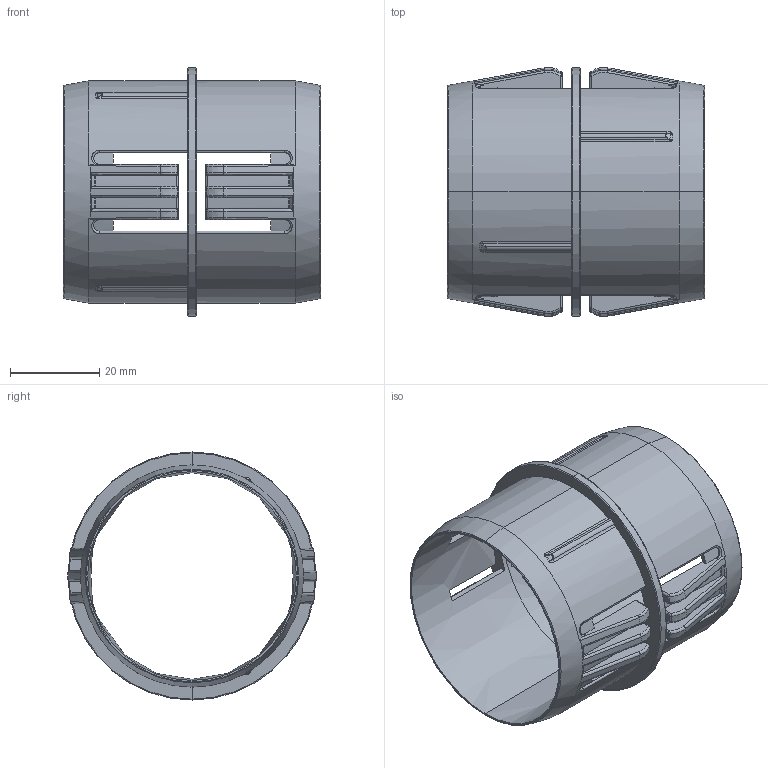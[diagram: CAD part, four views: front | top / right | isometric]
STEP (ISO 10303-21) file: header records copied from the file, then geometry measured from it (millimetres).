
FILE_DESCRIPTION (( 'STEP AP214' ), '1' );
FILE_NAME ('KP_CC-63.STEP', '2023-03-06T07:51:17', ( '' ), ( '' ), 'SwSTEP 2.0', 'SolidWorks 2022', '' );
FILE_SCHEMA (( 'AUTOMOTIVE_DESIGN' ));
Length unit declared in the file: millimetre
Products named in the file (1): KP_CC-63
Bounding box: 57.5 x 55.69 x 55.5 mm (x, y, z)
Volume: 14172.9 mm3; surface area: 19196.1 mm2
Topology: 1 solids, 1 shells, 343 faces, 875 edges, 522 vertices
Faces by surface type: bspline 104, cylinder 69, cone 52, plane 50, torus 40, sphere 28
Entity records: 13792 total; most frequent: CARTESIAN_POINT 6618, ORIENTED_EDGE 1734, DIRECTION 1197, EDGE_CURVE 867, VERTEX_POINT 522, AXIS2_PLACEMENT_3D 516, B_SPLINE_CURVE_WITH_KNOTS 406, EDGE_LOOP 349
